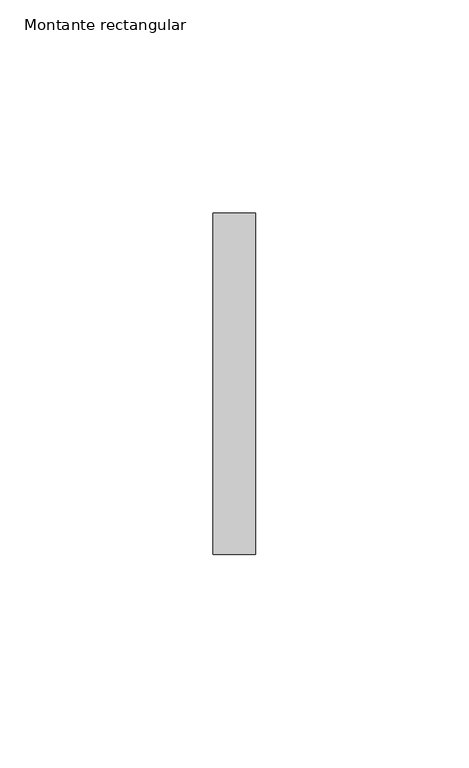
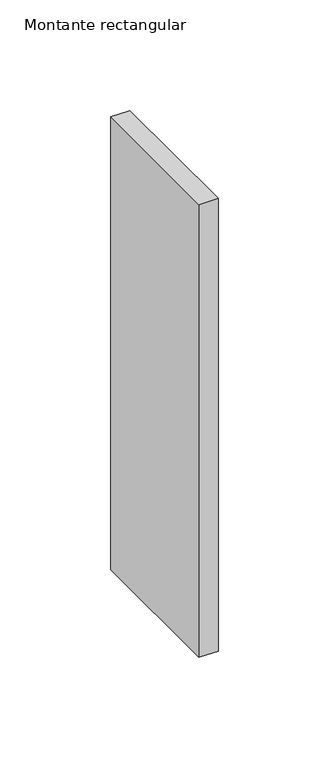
"""IFC4 building model written with IfcOpenShell, lengths in millimetres: member geometry, Montante rectangular : Junta de paves."""

import ifcopenshell
import ifcopenshell.guid

model = None  # the IFC model being written
_history = None  # IfcOwnerHistory: only IFC2X3 demands one
_inside = {}  # id of a spatial element -> (the spatial element, [elements in it])
_under = {}  # id of a project, library or spatial element -> (it, [spatial elements below it])
_declared = {}  # id of a project -> (the project, [libraries it declares])
_typed = {}  # id of a type object -> (the type object, [elements of that type])
_made_of = {}  # id of a material, layer set ... -> (it, [elements and type objects made of it])


def new_model(schema):
    """Start an empty IFC model of exactly this schema.

    Asked for "IFC4X3", IfcOpenShell would pick the latest addendum, in which some entities
    have other attributes; the version numbers below select the first issue.
    IFC2X3 requires an IfcOwnerHistory on every rooted entity: one is made here for all.
    """
    global model, _history
    if schema == "IFC4X3":
        model = ifcopenshell.file(schema_version=(4, 3, 0, 0))
    else:
        model = ifcopenshell.file(schema=schema)
    _inside.clear()
    _under.clear()
    _declared.clear()
    _typed.clear()
    _made_of.clear()
    _history = None
    if model.schema == "IFC2X3":
        org = make("IfcOrganization", Name="unknown")
        user = make(
            "IfcPersonAndOrganization",
            ThePerson=make("IfcPerson", FamilyName="unknown"),
            TheOrganization=org,
        )
        app = make(
            "IfcApplication",
            ApplicationDeveloper=org,
            Version="unknown",
            ApplicationFullName="unknown",
            ApplicationIdentifier="unknown",
        )
        _history = make(
            "IfcOwnerHistory",
            OwningUser=user,
            OwningApplication=app,
            ChangeAction="ADDED",
            CreationDate=0,
        )
    return model


def make(cls, **values):
    """One entity of the class cls with the attributes given. An attribute that is None is left unset."""
    return model.create_entity(
        cls, **{name: value for name, value in values.items() if value is not None}
    )


def rooted(cls, **values):
    """An entity with a GlobalId (a new one), such as an element, a storey or a relation."""
    return make(cls, GlobalId=ifcopenshell.guid.new(), OwnerHistory=_history, **values)


def si_unit(unit_type, name, prefix=None):
    """IfcSIUnit, for example si_unit("LENGTHUNIT", "METRE", prefix="MILLI")."""
    return make("IfcSIUnit", UnitType=unit_type, Prefix=prefix, Name=name)


def assignment(units):
    """IfcUnitAssignment: the units of a project."""
    return None if units is None else make("IfcUnitAssignment", Units=units)


def point(xyz):
    """IfcCartesianPoint."""
    return None if xyz is None else make("IfcCartesianPoint", Coordinates=xyz)


def direction(xyz):
    """IfcDirection."""
    return None if xyz is None else make("IfcDirection", DirectionRatios=xyz)


def frame(location, z_axis=None, x_axis=None):
    """IfcAxis2Placement3D, a coordinate frame: its origin and axes. An axis left out is left unset."""
    return make(
        "IfcAxis2Placement3D",
        Location=point(location),
        Axis=direction(z_axis),
        RefDirection=direction(x_axis),
    )


def origin():
    """The frame at (0, 0, 0) with its axes left unset."""
    return frame((0.0, 0.0, 0.0))


def place(relative_to, where):
    """IfcLocalPlacement: puts the frame where relative to a parent placement (None: the world)."""
    return make(
        "IfcLocalPlacement", PlacementRelTo=relative_to, RelativePlacement=where
    )


def context(
    kind, dimensions, precision=None, world=None, true_north=None, identifier=None
):
    """IfcGeometricRepresentationContext, for example the 3D "Model" context."""
    return make(
        "IfcGeometricRepresentationContext",
        ContextIdentifier=identifier,
        ContextType=kind,
        CoordinateSpaceDimension=dimensions,
        Precision=precision,
        WorldCoordinateSystem=world,
        TrueNorth=true_north,
    )


def project(units=None, contexts=None):
    """IfcProject with its units and contexts."""
    return rooted(
        "IfcProject",
        Name="project",
        RepresentationContexts=contexts,
        UnitsInContext=assignment(units),
    )


def spatial(cls, under=None, at=None, **own):
    """A site, building, storey or space (cls), placed at a placement, below another one or the project."""
    s = rooted(cls, ObjectPlacement=at, **own)
    if under is not None:
        _under.setdefault(under.id(), (under, []))[1].append(s)
    return s


def polyline(points):
    """IfcPolyline through the points."""
    return make("IfcPolyline", Points=[point(p) for p in points])


def outline(outer, holes=None, kind="AREA"):
    """IfcArbitraryClosedProfileDef: a profile drawn as a closed curve; with holes, ...WithVoids."""
    if holes is None:
        return make("IfcArbitraryClosedProfileDef", ProfileType=kind, OuterCurve=outer)
    return make(
        "IfcArbitraryProfileDefWithVoids",
        ProfileType=kind,
        OuterCurve=outer,
        InnerCurves=holes,
    )


def extrude(swept, where, along, depth):
    """IfcExtrudedAreaSolid: the profile swept, set in the frame where, extruded along a direction by depth."""
    return make(
        "IfcExtrudedAreaSolid",
        SweptArea=swept,
        Position=where,
        ExtrudedDirection=direction(along),
        Depth=depth,
    )


def shape(context_of_items, identifier, shape_type, items):
    """IfcShapeRepresentation: the items that make up one representation, for example the "Body"."""
    return make(
        "IfcShapeRepresentation",
        ContextOfItems=context_of_items,
        RepresentationIdentifier=identifier,
        RepresentationType=shape_type,
        Items=items,
    )


def source(mapping_origin, context_of_items, identifier, shape_type, items):
    """IfcRepresentationMap: a shape defined once, which mapped items show again and again."""
    return make(
        "IfcRepresentationMap",
        MappingOrigin=mapping_origin,
        MappedRepresentation=shape(context_of_items, identifier, shape_type, items),
    )


def transform(
    local_origin,
    x_axis=None,
    y_axis=None,
    z_axis=None,
    scale=None,
    scale2=None,
    scale3=None,
    uniform=True,
):
    """IfcCartesianTransformationOperator3D, or its non-uniform kind. x_axis, y_axis, z_axis: its Axis1, 2, 3."""
    if uniform:
        return make(
            "IfcCartesianTransformationOperator3D",
            Axis1=direction(x_axis),
            Axis2=direction(y_axis),
            LocalOrigin=point(local_origin),
            Scale=scale,
            Axis3=direction(z_axis),
        )
    return make(
        "IfcCartesianTransformationOperator3DnonUniform",
        Axis1=direction(x_axis),
        Axis2=direction(y_axis),
        LocalOrigin=point(local_origin),
        Scale=scale,
        Axis3=direction(z_axis),
        Scale2=scale2,
        Scale3=scale3,
    )


def mapped(mapping_source, mapping_target):
    """IfcMappedItem: shows the shape of a source again, moved by a transform."""
    return make(
        "IfcMappedItem", MappingSource=mapping_source, MappingTarget=mapping_target
    )


def made_of(thing, what):
    """Note that an element or type object is made of a material, layer set ...; save() writes the relation."""
    if what is not None:
        _made_of.setdefault(what.id(), (what, []))[1].append(thing)
    return thing


def element(
    cls,
    number,
    at=None,
    inside=None,
    cuts=None,
    type_object=None,
    material=None,
    context=None,
    identifier="Body",
    shape_type=None,
    held_by="IfcProductDefinitionShape",
    body=None,
    shapes=None,
    **own,
):
    """One element of the class cls, such as IfcWall. Its Tag is "e" and its number.

    at: its placement. inside: the storey or other place that contains it. cuts: it is an
    opening in that element (IfcRelVoidsElement). A single representation is given by context,
    identifier, shape_type and body (its items); several are given by shapes. held_by: the class
    of the entity that holds the representations. save() writes the other relations.
    """
    e = rooted(cls, Tag="e%d" % number, ObjectPlacement=at, **own)
    if body is not None:
        shapes = [shape(context, identifier, shape_type, body)]
    if shapes is not None:
        e.Representation = make(held_by, Representations=shapes)
    if inside is not None:
        _inside.setdefault(inside.id(), (inside, []))[1].append(e)
    if cuts is not None:
        rooted(
            "IfcRelVoidsElement", RelatingBuildingElement=cuts, RelatedOpeningElement=e
        )
    if type_object is not None:
        _typed.setdefault(type_object.id(), (type_object, []))[1].append(e)
    return made_of(e, material)


def aggregate(whole, parts):
    """IfcRelAggregates: a whole, such as a stair, and the parts it consists of."""
    return rooted("IfcRelAggregates", RelatingObject=whole, RelatedObjects=parts)


def save(model, path):
    """Write the relations noted so far, then the file.

    IfcRelAggregates (storeys below a building ...), IfcRelContainedInSpatialStructure (elements
    in a storey), IfcRelDefinesByType, IfcRelAssociatesMaterial and IfcRelDeclares: one each for
    every whole, place, type object, material and project.
    """
    for whole, parts in _under.values():
        aggregate(whole, parts)
    for where, things in _inside.values():
        rooted(
            "IfcRelContainedInSpatialStructure",
            RelatedElements=things,
            RelatingStructure=where,
        )
    for kind, things in _typed.values():
        rooted("IfcRelDefinesByType", RelatedObjects=things, RelatingType=kind)
    for what, things in _made_of.values():
        rooted("IfcRelAssociatesMaterial", RelatedObjects=things, RelatingMaterial=what)
    for by, libraries in _declared.values():
        rooted("IfcRelDeclares", RelatingContext=by, RelatedDefinitions=libraries)
    model.write(path)


def montante_rectangular_d5d69b61(model_context):
    return source(origin(), model_context, "Body", "SweptSolid", [
        extrude(outline(polyline([(0.0, 40.0), (0.0, -40.0), (-10.0, -40.0), (-10.0, 40.0), (0.0, 40.0)])), frame((0.0, 0.0, -250.0), z_axis=(0.0, 0.0, 1.0), x_axis=(1.0, 0.0, 0.0)), (0.0, 0.0, 1.0), 250.0),
    ])


if __name__ == "__main__":
    model = new_model("IFC4")
    model_context = context("Model", 3, world=origin())
    ifc_project = project(units=[si_unit("LENGTHUNIT", "METRE", prefix="MILLI")], contexts=[model_context])
    site = spatial("IfcSite", under=ifc_project)
    building = spatial("IfcBuilding", under=site)
    placement = place(None, origin())
    montante_rectangular_shape = montante_rectangular_d5d69b61(model_context)
    element("IfcMember", 1, ObjectType="Montante rectangular : Junta de paves", at=placement, inside=building, context=model_context, shape_type="MappedRepresentation", body=[
        mapped(montante_rectangular_shape, transform((0.0, 0.0, 0.0), x_axis=(1.0, 0.0, 0.0), y_axis=(0.0, 1.0, 0.0), z_axis=(0.0, 0.0, 1.0))),
    ])
    save(model, "model.ifc")
